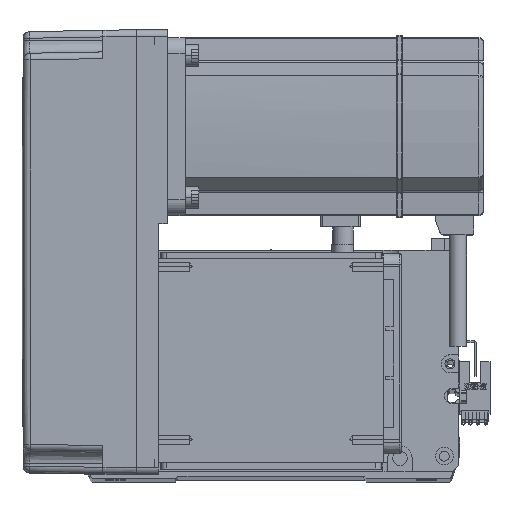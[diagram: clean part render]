
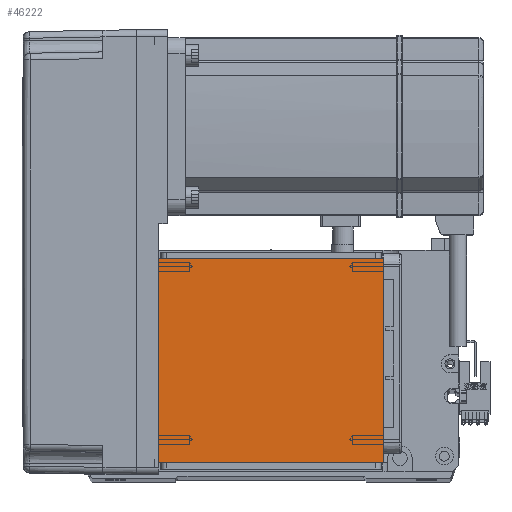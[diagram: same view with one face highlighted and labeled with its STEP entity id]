
A CAD part, top view. The second image highlights one B-rep face of the part: STEP entity #46222.
In plain terms, the highlighted planar face has unit normal (0, 0, 1).
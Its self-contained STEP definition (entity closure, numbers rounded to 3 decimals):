
#301 = VECTOR ( 'NONE', #18127, 1000. ) ;
#4790 = CARTESIAN_POINT ( 'NONE',  ( 50.5, 122., 115. ) ) ;
#6650 = EDGE_LOOP ( 'NONE', ( #39593, #40200, #41683, #18052 ) ) ;
#6689 = CARTESIAN_POINT ( 'NONE',  ( -50.5, 20., 115. ) ) ;
#9009 = VERTEX_POINT ( 'NONE', #38320 ) ;
#9383 = LINE ( 'NONE', #15711, #10074 ) ;
#10074 = VECTOR ( 'NONE', #43091, 1000. ) ;
#10936 = EDGE_CURVE ( 'NONE', #45631, #36365, #19650, .T. ) ;
#15040 = LINE ( 'NONE', #58025, #301 ) ;
#15711 = CARTESIAN_POINT ( 'NONE',  ( -70.004, 111.5, 115. ) ) ;
#17586 = AXIS2_PLACEMENT_3D ( 'NONE', #31220, #17904, #31404 ) ;
#17904 = DIRECTION ( 'NONE',  ( 0., 0., 1. ) ) ;
#18052 = ORIENTED_EDGE ( 'NONE', *, *, #42740, .T. ) ;
#18127 = DIRECTION ( 'NONE',  ( 0., -1., 0. ) ) ;
#19286 = DIRECTION ( 'NONE',  ( 0., 1., 0. ) ) ;
#19650 = LINE ( 'NONE', #57002, #23196 ) ;
#23196 = VECTOR ( 'NONE', #25518, 1000. ) ;
#25518 = DIRECTION ( 'NONE',  ( -1., 0., 0. ) ) ;
#26587 = VERTEX_POINT ( 'NONE', #55988 ) ;
#31220 = CARTESIAN_POINT ( 'NONE',  ( 0., 0., 115. ) ) ;
#31404 = DIRECTION ( 'NONE',  ( 1., 0., 0. ) ) ;
#32221 = VECTOR ( 'NONE', #19286, 1000. ) ;
#33617 = LINE ( 'NONE', #4790, #32221 ) ;
#34281 = EDGE_CURVE ( 'NONE', #26587, #36365, #15040, .T. ) ;
#36365 = VERTEX_POINT ( 'NONE', #6689 ) ;
#38320 = CARTESIAN_POINT ( 'NONE',  ( 50.5, 111.5, 115. ) ) ;
#39307 = EDGE_CURVE ( 'NONE', #26587, #9009, #9383, .T. ) ;
#39593 = ORIENTED_EDGE ( 'NONE', *, *, #39307, .F. ) ;
#40200 = ORIENTED_EDGE ( 'NONE', *, *, #34281, .T. ) ;
#41683 = ORIENTED_EDGE ( 'NONE', *, *, #10936, .F. ) ;
#42740 = EDGE_CURVE ( 'NONE', #45631, #9009, #33617, .T. ) ;
#43091 = DIRECTION ( 'NONE',  ( 1., 0., 0. ) ) ;
#45631 = VERTEX_POINT ( 'NONE', #55434 ) ;
#46222 = ADVANCED_FACE ( 'NONE', ( #51433 ), #56662, .T. ) ;
#51433 = FACE_OUTER_BOUND ( 'NONE', #6650, .T. ) ;
#55434 = CARTESIAN_POINT ( 'NONE',  ( 50.5, 20., 115. ) ) ;
#55988 = CARTESIAN_POINT ( 'NONE',  ( -50.5, 111.5, 115. ) ) ;
#56662 = PLANE ( 'NONE',  #17586 ) ;
#57002 = CARTESIAN_POINT ( 'NONE',  ( -70.004, 20., 115. ) ) ;
#58025 = CARTESIAN_POINT ( 'NONE',  ( -50.5, 122., 115. ) ) ;
